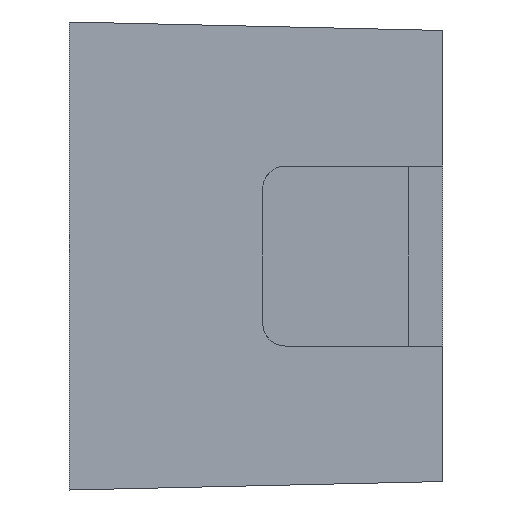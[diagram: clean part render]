
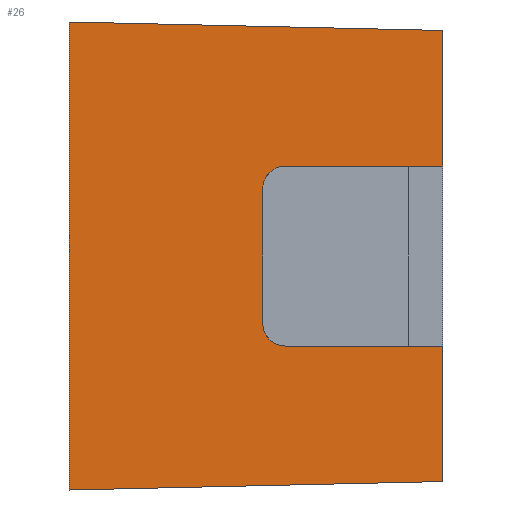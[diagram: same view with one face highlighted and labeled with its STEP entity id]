
A CAD part, left-side view. The second image highlights one B-rep face of the part: STEP entity #26.
In plain terms, the highlighted planar face has unit normal (-1, -0.023, 0).
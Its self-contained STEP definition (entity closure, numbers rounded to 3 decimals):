
#13 = EDGE_CURVE ( 'NONE', #98, #14, #814, .T. ) ;
#14 = VERTEX_POINT ( 'NONE', #810 ) ;
#26 = ADVANCED_FACE ( 'NONE', ( #790 ), #789, .F. ) ;
#27 = EDGE_LOOP ( 'NONE', ( #28, #31, #32, #35, #38, #78, #733, #736, #737, #742 ) ) ;
#28 = ORIENTED_EDGE ( 'NONE', *, *, #29, .F. ) ;
#29 = EDGE_CURVE ( 'NONE', #14, #30, #837, .T. ) ;
#30 = VERTEX_POINT ( 'NONE', #833 ) ;
#31 = ORIENTED_EDGE ( 'NONE', *, *, #13, .F. ) ;
#32 = ORIENTED_EDGE ( 'NONE', *, *, #33, .T. ) ;
#33 = EDGE_CURVE ( 'NONE', #98, #34, #832, .T. ) ;
#34 = VERTEX_POINT ( 'NONE', #828 ) ;
#35 = ORIENTED_EDGE ( 'NONE', *, *, #36, .T. ) ;
#36 = EDGE_CURVE ( 'NONE', #34, #37, #825, .T. ) ;
#37 = VERTEX_POINT ( 'NONE', #827 ) ;
#38 = ORIENTED_EDGE ( 'NONE', *, *, #80, .T. ) ;
#78 = ORIENTED_EDGE ( 'NONE', *, *, #731, .T. ) ;
#80 = EDGE_CURVE ( 'NONE', #37, #81, #932, .T. ) ;
#81 = VERTEX_POINT ( 'NONE', #928 ) ;
#86 = VERTEX_POINT ( 'NONE', #918 ) ;
#88 = EDGE_CURVE ( 'NONE', #86, #89, #917, .T. ) ;
#89 = VERTEX_POINT ( 'NONE', #913 ) ;
#98 = VERTEX_POINT ( 'NONE', #961 ) ;
#189 = DIRECTION ( 'NONE',  ( -0.023, 1., 0. ) ) ;
#731 = EDGE_CURVE ( 'NONE', #81, #732, #1934, .T. ) ;
#732 = VERTEX_POINT ( 'NONE', #1935 ) ;
#733 = ORIENTED_EDGE ( 'NONE', *, *, #735, .T. ) ;
#734 = VERTEX_POINT ( 'NONE', #1929 ) ;
#735 = EDGE_CURVE ( 'NONE', #732, #89, #1928, .T. ) ;
#736 = ORIENTED_EDGE ( 'NONE', *, *, #88, .F. ) ;
#737 = ORIENTED_EDGE ( 'NONE', *, *, #738, .F. ) ;
#738 = EDGE_CURVE ( 'NONE', #734, #86, #1980, .T. ) ;
#742 = ORIENTED_EDGE ( 'NONE', *, *, #743, .F. ) ;
#743 = EDGE_CURVE ( 'NONE', #30, #734, #1975, .T. ) ;
#786 = DIRECTION ( 'NONE',  ( 1., 0.023, 0. ) ) ;
#787 = AXIS2_PLACEMENT_3D ( 'NONE', #788, #786, #189 ) ;
#788 = CARTESIAN_POINT ( 'NONE',  ( -26.4, 16.6, -10.4 ) ) ;
#789 = PLANE ( 'NONE',  #787 ) ;
#790 = FACE_OUTER_BOUND ( 'NONE', #27, .T. ) ;
#810 = CARTESIAN_POINT ( 'NONE',  ( -26.023, 0., -10.023 ) ) ;
#811 = DIRECTION ( 'NONE',  ( 0., 0., -1. ) ) ;
#812 = VECTOR ( 'NONE', #811, 1000. ) ;
#813 = CARTESIAN_POINT ( 'NONE',  ( -26.023, 0., 10.4 ) ) ;
#814 = LINE ( 'NONE', #813, #812 ) ;
#821 = CARTESIAN_POINT ( 'NONE',  ( -26.205, 8., -3. ) ) ;
#822 = CARTESIAN_POINT ( 'NONE',  ( -26.205, 8., -3.586 ) ) ;
#823 = CARTESIAN_POINT ( 'NONE',  ( -26.195, 7.586, -4. ) ) ;
#824 = CARTESIAN_POINT ( 'NONE',  ( -26.182, 7., -4. ) ) ;
#825 =( BOUNDED_CURVE ( )  B_SPLINE_CURVE ( 3, ( #824, #823, #822, #821 ),
 .UNSPECIFIED., .F., .T. ) 
 B_SPLINE_CURVE_WITH_KNOTS ( ( 4, 4 ),
 ( 4.712, 6.283 ),
 .UNSPECIFIED. ) 
 CURVE ( )  GEOMETRIC_REPRESENTATION_ITEM ( )  RATIONAL_B_SPLINE_CURVE ( ( 1., 0.805, 0.805, 1. ) ) 
 REPRESENTATION_ITEM ( '' )  );
#827 = CARTESIAN_POINT ( 'NONE',  ( -26.205, 8., -3. ) ) ;
#828 = CARTESIAN_POINT ( 'NONE',  ( -26.182, 7., -4. ) ) ;
#829 = DIRECTION ( 'NONE',  ( -0.023, 1., 0. ) ) ;
#830 = VECTOR ( 'NONE', #829, 1000. ) ;
#831 = CARTESIAN_POINT ( 'NONE',  ( -26.023, -0.021, -4. ) ) ;
#832 = LINE ( 'NONE', #831, #830 ) ;
#833 = CARTESIAN_POINT ( 'NONE',  ( -26.4, 16.6, -10.4 ) ) ;
#834 = DIRECTION ( 'NONE',  ( -0.023, 0.999, -0.023 ) ) ;
#835 = VECTOR ( 'NONE', #834, 1000. ) ;
#836 = CARTESIAN_POINT ( 'NONE',  ( -26.4, 16.6, -10.4 ) ) ;
#837 = LINE ( 'NONE', #836, #835 ) ;
#913 = CARTESIAN_POINT ( 'NONE',  ( -26.023, 0., 4. ) ) ;
#914 = DIRECTION ( 'NONE',  ( 0., 0., -1. ) ) ;
#915 = VECTOR ( 'NONE', #914, 1000. ) ;
#916 = CARTESIAN_POINT ( 'NONE',  ( -26.023, 0., 10.4 ) ) ;
#917 = LINE ( 'NONE', #916, #915 ) ;
#918 = CARTESIAN_POINT ( 'NONE',  ( -26.023, 0., 10.023 ) ) ;
#928 = CARTESIAN_POINT ( 'NONE',  ( -26.205, 8., 3. ) ) ;
#929 = DIRECTION ( 'NONE',  ( 0., 0., 1. ) ) ;
#930 = VECTOR ( 'NONE', #929, 1000. ) ;
#931 = CARTESIAN_POINT ( 'NONE',  ( -26.205, 8., 3. ) ) ;
#932 = LINE ( 'NONE', #931, #930 ) ;
#961 = CARTESIAN_POINT ( 'NONE',  ( -26.023, 0., -4. ) ) ;
#1925 = DIRECTION ( 'NONE',  ( 0.023, -1., 0. ) ) ;
#1926 = VECTOR ( 'NONE', #1925, 1000. ) ;
#1927 = CARTESIAN_POINT ( 'NONE',  ( -26.023, -0.021, 4. ) ) ;
#1928 = LINE ( 'NONE', #1927, #1926 ) ;
#1929 = CARTESIAN_POINT ( 'NONE',  ( -26.4, 16.6, 10.4 ) ) ;
#1930 = CARTESIAN_POINT ( 'NONE',  ( -26.182, 7., 4. ) ) ;
#1931 = CARTESIAN_POINT ( 'NONE',  ( -26.195, 7.586, 4. ) ) ;
#1932 = CARTESIAN_POINT ( 'NONE',  ( -26.205, 8., 3.586 ) ) ;
#1933 = CARTESIAN_POINT ( 'NONE',  ( -26.205, 8., 3. ) ) ;
#1934 =( BOUNDED_CURVE ( )  B_SPLINE_CURVE ( 3, ( #1933, #1932, #1931, #1930 ),
 .UNSPECIFIED., .F., .T. ) 
 B_SPLINE_CURVE_WITH_KNOTS ( ( 4, 4 ),
 ( 0., 1.571 ),
 .UNSPECIFIED. ) 
 CURVE ( )  GEOMETRIC_REPRESENTATION_ITEM ( )  RATIONAL_B_SPLINE_CURVE ( ( 1., 0.805, 0.805, 1. ) ) 
 REPRESENTATION_ITEM ( '' )  );
#1935 = CARTESIAN_POINT ( 'NONE',  ( -26.182, 7., 4. ) ) ;
#1967 = DIRECTION ( 'NONE',  ( 0., 0., 1. ) ) ;
#1968 = VECTOR ( 'NONE', #1967, 1000. ) ;
#1969 = CARTESIAN_POINT ( 'NONE',  ( -26.4, 16.6, -10.4 ) ) ;
#1975 = LINE ( 'NONE', #1969, #1968 ) ;
#1977 = DIRECTION ( 'NONE',  ( 0.023, -0.999, -0.023 ) ) ;
#1978 = VECTOR ( 'NONE', #1977, 1000. ) ;
#1979 = CARTESIAN_POINT ( 'NONE',  ( -26.4, 16.6, 10.4 ) ) ;
#1980 = LINE ( 'NONE', #1979, #1978 ) ;
